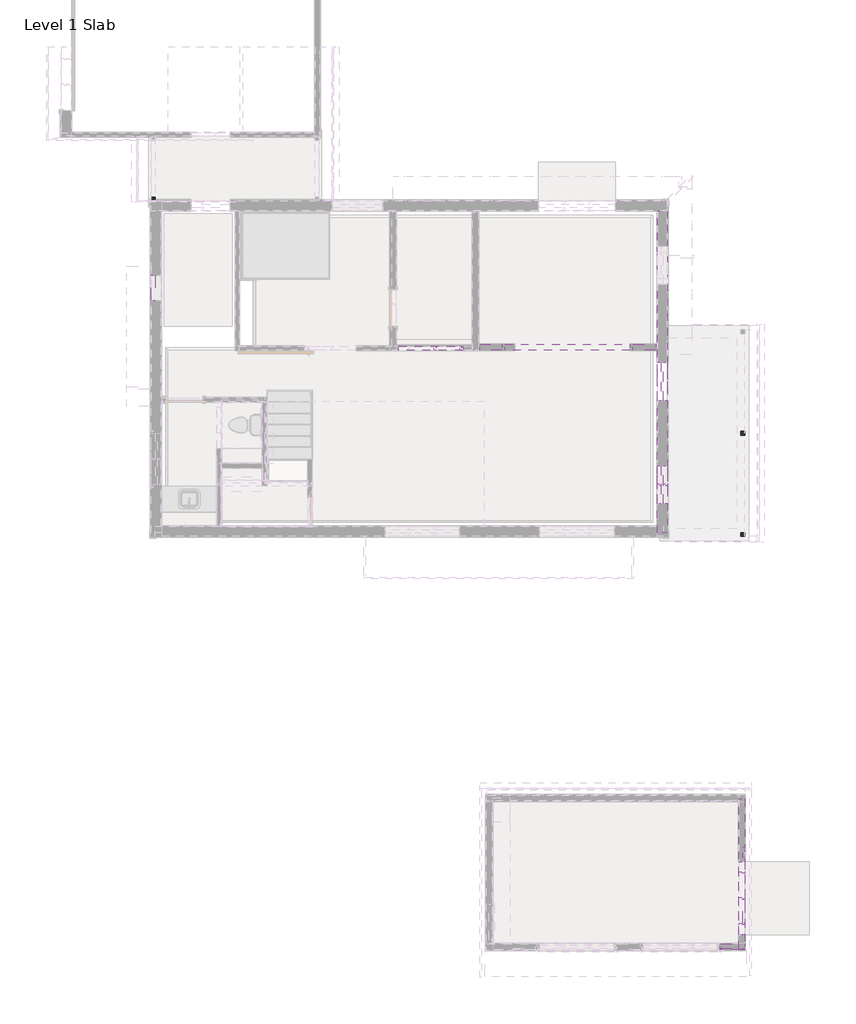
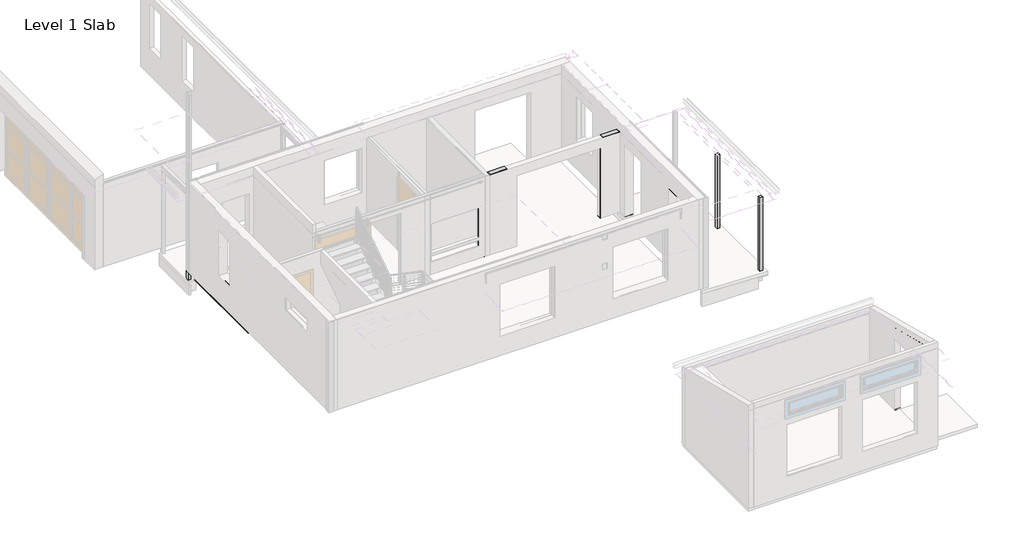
# One storey, part 7 of 11: 107 beams, 8 columns.
"""IFC4 building model written with IfcOpenShell, lengths in millimetres."""

from ifc_helpers import new_model, si_unit, frame, origin, origin_with_axes, place, context, project, spatial, polyline, outline, extrude, transform, mapped, element, save
from components import dimension_lumber_2x2_c3e2c1cf, dimension_lumber_2x2_08950960, dimension_lumber_2x2_9f254d07, dimension_lumber_2x2_fbeded5b, dimension_lumber_2x4_2dd300de, dimension_lumber_2x4_b7cbdda3, dimension_lumber_2x4_fd937da0, dimension_lumber_2x4_453c5e2a, dimension_lumber_2x4_cb0fdfa4, dimension_lumber_2x4_2c48d0d1, dimension_lumber_2x4_4d8e3e30, dimension_lumber_2x4_7c62d23e, dimension_lumber_2x4_f0cfbcd8, dimension_lumber_2x4_02e58853, dimension_lumber_2x4_35f39350, dimension_lumber_2x4_738760fd, dimension_lumber_2x4_d2ad68aa, dimension_lumber_2x4_ecf07961, dimension_lumber_2x6_253154f5, dimension_lumber_2x6_13f6f239, dimension_lumber_2x6_2847fc75, dimension_lumber_2x6_2ccf5596, dimension_lumber_2x6_59b9ee6c, dimension_lumber_2x6_1b54fe5d, dimension_lumber_2x6_184016b7, dimension_lumber_2x6_2ad6867e, dimension_lumber_2x6_e1981d56, dimension_lumber_2x6_72b217a7, dimension_lumber_2x6_af308bb7, dimension_lumber_2x6_0f12f206, dimension_lumber_2x6_d64612f5, dimension_lumber_2x6_a43e2e79, dimension_lumber_2x6_5879879b, dimension_lumber_2x6_691fcd61, dimension_lumber_2x6_1c5a12aa, dimension_lumber_2x6_ff2e0cc2, dimension_lumber_2x6_2d2301bf, dimension_lumber_4x6_ef52ddf4, dimension_lumber_4x6_a3d246c2, dimension_lumber_4x6_0e10d602, dimension_lumber_4x8_cfcc723d, timber_6x6_61547d3c, column_4bd45d62, column_46512281, column_7f5f3ff1, column_a178d7d2

model = new_model("IFC4")

# Units and contexts
model_context = context("Model", 3, world=origin())
ifc_project = project(units=[si_unit("LENGTHUNIT", "METRE", prefix="MILLI")], contexts=[model_context])

# Site, building, storey
site = spatial("IfcSite", under=ifc_project)
building = spatial("IfcBuilding", under=site)
storey = spatial("IfcBuildingStorey", under=building, Name="Level 1 Slab", Elevation=0.0)

# Beams
placement = place(None, origin())
element("IfcBeam", 1, ObjectType="Dimension Lumber : 2x10", at=placement, inside=storey, context=model_context, shape_type="SweptSolid", body=[
    extrude(outline(polyline([(-1074.0678637, -4487.3650713), (-1309.0178637, -4487.3650713), (-1309.0178637, 3113.5849287), (-1074.0678637, 3113.5849287), (-1074.0678637, -4487.3650713)])), frame((0.0, 0.0, 2705.1), z_axis=(0.0, 0.0, 1.0), x_axis=(1.0, 0.0, 0.0)), (0.0, 0.0, 1.0), 38.1),
])
element("IfcBeam", 2, ObjectType="Dimension Lumber : 2x2", at=placement, inside=storey, context=model_context, shape_type="SweptSolid", body=[
    extrude(outline(polyline([(-1074.0678637, -423.1904463), (-1112.1678637, -423.1904463), (-1112.1678637, -385.0904463), (-1074.0678637, -385.0904463), (-1074.0678637, -423.1904463)])), frame((0.0, 0.0, 38.1), z_axis=(0.0, 0.0, 1.0), x_axis=(1.0, 0.0, 0.0)), (0.0, 0.0, 1.0), 2667.0),
])
element("IfcBeam", 3, ObjectType="Dimension Lumber : 2x2", at=placement, inside=storey, context=model_context, shape_type="SweptSolid", body=[
    extrude(outline(polyline([(-12358.0078637, 3348.5349287), (-12358.0078637, 3310.4349287), (-12396.1078637, 3310.4349287), (-12396.1078637, 3348.5349287), (-12358.0078637, 3348.5349287)])), frame((0.0, 0.0, 38.1), z_axis=(0.0, 0.0, 1.0), x_axis=(1.0, 0.0, 0.0)), (0.0, 0.0, 1.0), 2667.0),
])
element("IfcBeam", 4, ObjectType="Dimension Lumber : 2x2", at=placement, inside=storey, context=model_context, shape_type="SweptSolid", body=[
    extrude(outline(polyline([(754.7321363, -14063.1650713), (716.6321363, -14063.1650713), (716.6321363, -14025.0650713), (754.7321363, -14025.0650713), (754.7321363, -14063.1650713)])), frame((0.0, 0.0, -114.3), z_axis=(0.0, 0.0, 1.0), x_axis=(1.0, 0.0, 0.0)), (0.0, 0.0, 1.0), 2489.2),
])
dimension_lumber_2x2_shape = dimension_lumber_2x2_c3e2c1cf(model_context)
element("IfcBeam", 5, ObjectType="Dimension Lumber : 2x2", at=placement, inside=storey, context=model_context, shape_type="MappedRepresentation", body=[
    mapped(dimension_lumber_2x2_shape, transform((-13247.0178637, 935.5349287, 1771.65), x_axis=(0.0, 0.0, 1.0), y_axis=(0.0, -1.0, 0.0), z_axis=(1.0, 0.0, 0.0))),
])
dimension_lumber_2x2_2_shape = dimension_lumber_2x2_08950960(model_context)
element("IfcBeam", 6, ObjectType="Dimension Lumber : 2x2", at=placement, inside=storey, context=model_context, shape_type="MappedRepresentation", body=[
    mapped(dimension_lumber_2x2_2_shape, transform((-1093.1178637, -2847.4875713, 1619.25), x_axis=(0.0, 0.0, 1.0), y_axis=(0.0, -1.0, 0.0), z_axis=(1.0, 0.0, 0.0))),
])
element("IfcBeam", 7, ObjectType="Dimension Lumber : 2x2", at=placement, inside=storey, context=model_context, shape_type="MappedRepresentation", body=[
    mapped(dimension_lumber_2x2_2_shape, transform((-1093.1178637, -3864.8904463, 1619.25), x_axis=(0.0, 0.0, 1.0), y_axis=(0.0, -1.0, 0.0), z_axis=(1.0, 0.0, 0.0))),
])
dimension_lumber_2x2_3_shape = dimension_lumber_2x2_9f254d07(model_context)
element("IfcBeam", 8, ObjectType="Dimension Lumber : 2x2", at=placement, inside=storey, context=model_context, shape_type="MappedRepresentation", body=[
    mapped(dimension_lumber_2x2_3_shape, transform((195.9421363, -14323.5150713, 2819.4), x_axis=(0.0, 0.0, 1.0), y_axis=(1.0, 0.0, 0.0), z_axis=(0.0, 1.0, 0.0))),
])
dimension_lumber_2x2_4_shape = dimension_lumber_2x2_fbeded5b(model_context)
element("IfcBeam", 9, ObjectType="Dimension Lumber : 2x2", at=placement, inside=storey, context=model_context, shape_type="MappedRepresentation", body=[
    mapped(dimension_lumber_2x2_4_shape, transform((195.9421363, -14323.5150713, 1377.95), x_axis=(0.0, 0.0, 1.0), y_axis=(1.0, 0.0, 0.0), z_axis=(0.0, 1.0, 0.0))),
])
element("IfcBeam", 10, ObjectType="Dimension Lumber : 2x4", at=placement, inside=storey, context=model_context, shape_type="SweptSolid", body=[
    extrude(outline(polyline([(38.1, -13175.5803637), (0.0, -13175.5803637), (0.0, -12319.9078637), (38.1, -12358.0078637), (38.1, -13175.5803637)])), frame((0.0, 3259.6349287, 0.0), z_axis=(0.0, 1.0, 0.0), x_axis=(0.0, 0.0, 1.0)), (0.0, 0.0, 1.0), 88.9),
])
element("IfcBeam", 11, ObjectType="Dimension Lumber : 2x4", at=placement, inside=storey, context=model_context, shape_type="SweptSolid", body=[
    extrude(outline(polyline([(-13137.4803637, 3348.5349287), (-13137.4803637, 3259.6349287), (-13175.5803637, 3259.6349287), (-13175.5803637, 3348.5349287), (-13137.4803637, 3348.5349287)])), frame((0.0, 0.0, 38.1000006), z_axis=(0.0, 0.0, 1.0), x_axis=(1.0, 0.0, 0.0)), (0.0, 0.0, 1.0), 2666.9999994),
])
element("IfcBeam", 12, ObjectType="Dimension Lumber : 2x4", at=placement, inside=storey, context=model_context, shape_type="SweptSolid", body=[
    extrude(outline(polyline([(2705.1, -12319.9078637), (2705.1, -12358.0078637), (38.1, -12358.0078637), (0.0, -12319.9078637), (2705.1, -12319.9078637)])), frame((0.0, 3259.6349287, 0.0), z_axis=(0.0, 1.0, 0.0), x_axis=(0.0, 0.0, 1.0)), (0.0, 0.0, 1.0), 88.9),
])
element("IfcBeam", 13, ObjectType="Dimension Lumber : 2x4", at=placement, inside=storey, context=model_context, shape_type="SweptSolid", body=[
    extrude(outline(polyline([(-1162.9678637, -1375.6904463), (-1074.0678637, -1375.6904463), (-1074.0678637, -4576.0904463), (-1162.9678637, -4576.0904463), (-1162.9678637, -1375.6904463)])), origin_with_axes(), (0.0, 0.0, 1.0), 38.1),
])
element("IfcBeam", 14, ObjectType="Dimension Lumber : 2x4", at=placement, inside=storey, context=model_context, shape_type="SweptSolid", body=[
    extrude(outline(polyline([(-1074.0678637, -461.2904463), (-1162.9678637, -461.2904463), (-1162.9678637, -423.1904463), (-1074.0678637, -423.1904463), (-1074.0678637, -461.2904463)])), origin_with_axes(), (0.0, 0.0, 1.0), 2705.1),
])
element("IfcBeam", 15, ObjectType="Dimension Lumber : 2x4", at=placement, inside=storey, context=model_context, shape_type="SweptSolid", body=[
    extrude(outline(polyline([(-1074.0678637, -1547.3150713), (-1162.9678637, -1547.3150713), (-1162.9678637, -1509.2150713), (-1074.0678637, -1509.2150713), (-1074.0678637, -1547.3150713)])), frame((0.0, 0.0, 38.1), z_axis=(0.0, 0.0, 1.0), x_axis=(1.0, 0.0, 0.0)), (0.0, 0.0, 1.0), 2667.0),
])
element("IfcBeam", 16, ObjectType="Dimension Lumber : 2x4", at=placement, inside=storey, context=model_context, shape_type="SweptSolid", body=[
    extrude(outline(polyline([(-13081.9178637, 3202.4849287), (-13081.9178637, 3113.5849287), (-13120.0178637, 3113.5849287), (-13120.0178637, 3202.4849287), (-13081.9178637, 3202.4849287)])), frame((0.0, 0.0, 38.1), z_axis=(0.0, 0.0, 1.0), x_axis=(1.0, 0.0, 0.0)), (0.0, 0.0, 1.0), 2667.0),
])
element("IfcBeam", 17, ObjectType="Dimension Lumber : 2x4", at=placement, inside=storey, context=model_context, shape_type="SweptSolid", body=[
    extrude(outline(polyline([(-1309.0178637, -1413.7904463), (-1220.1178637, -1413.7904463), (-1220.1178637, -4341.3150713), (-1309.0178637, -4341.3150713), (-1309.0178637, -1413.7904463)])), origin_with_axes(), (0.0, 0.0, 1.0), 38.1),
])
element("IfcBeam", 18, ObjectType="Dimension Lumber : 2x4", at=placement, inside=storey, context=model_context, shape_type="SweptSolid", body=[
    extrude(outline(polyline([(-1220.1178637, -461.2904463), (-1309.0178637, -461.2904463), (-1309.0178637, -423.1904463), (-1220.1178637, -423.1904463), (-1220.1178637, -461.2904463)])), origin_with_axes(), (0.0, 0.0, 1.0), 2705.1),
])
element("IfcBeam", 19, ObjectType="Dimension Lumber : 2x4", at=placement, inside=storey, context=model_context, shape_type="SweptSolid", body=[
    extrude(outline(polyline([(-1220.1178637, -1413.7904463), (-1309.0178637, -1413.7904463), (-1309.0178637, -1375.6904463), (-1220.1178637, -1375.6904463), (-1220.1178637, -1413.7904463)])), origin_with_axes(), (0.0, 0.0, 1.0), 2705.1),
])
element("IfcBeam", 20, ObjectType="Dimension Lumber : 2x4", at=placement, inside=storey, context=model_context, shape_type="SweptSolid", body=[
    extrude(outline(polyline([(-7427.2428637, -175.7150713), (-7427.2428637, -86.8150713), (-5903.2428637, -86.8150713), (-5903.2428637, -175.7150713), (-7427.2428637, -175.7150713)])), frame((0.0, 0.0, 635.0), z_axis=(0.0, 0.0, 1.0), x_axis=(1.0, 0.0, 0.0)), (0.0, 0.0, 1.0), 38.1),
])
element("IfcBeam", 21, ObjectType="Dimension Lumber : 2x4", at=placement, inside=storey, context=model_context, shape_type="SweptSolid", body=[
    extrude(outline(polyline([(-13126.3678637, 3202.4849287), (-13037.4678637, 3202.4849287), (-13037.4678637, 217.9849287), (-13126.3678637, 217.9849287), (-13126.3678637, 3202.4849287)])), frame((0.0, 0.0, -274.3398438), z_axis=(0.0, 0.0, 1.0), x_axis=(1.0, 0.0, 0.0)), (0.0, 0.0, 1.0), 38.1),
])
element("IfcBeam", 22, ObjectType="Dimension Lumber : 2x4", at=placement, inside=storey, context=model_context, shape_type="SweptSolid", body=[
    extrude(outline(polyline([(-7427.2428637, -175.7150713), (-7427.2428637, -86.8150713), (-5903.2428637, -86.8150713), (-5903.2428637, -175.7150713), (-7427.2428637, -175.7150713)])), frame((0.0, 0.0, 673.1), z_axis=(0.0, 0.0, 1.0), x_axis=(1.0, 0.0, 0.0)), (0.0, 0.0, 1.0), 38.1),
])
element("IfcBeam", 23, ObjectType="Dimension Lumber : 2x4", at=placement, inside=storey, context=model_context, shape_type="SweptSolid", body=[
    extrude(outline(polyline([(-7427.2428637, -175.7150713), (-7427.2428637, -86.8150713), (-5903.2428637, -86.8150713), (-5903.2428637, -175.7150713), (-7427.2428637, -175.7150713)])), frame((0.0, 0.0, 393.7), z_axis=(0.0, 0.0, 1.0), x_axis=(1.0, 0.0, 0.0)), (0.0, 0.0, 1.0), 38.1),
])
element("IfcBeam", 24, ObjectType="Dimension Lumber : 2x4", at=placement, inside=storey, context=model_context, shape_type="SweptSolid", body=[
    extrude(outline(polyline([(-5884.1928637, -74.1150713), (-5884.1928637, 14.7849287), (-5677.8178637, 14.7849287), (-5677.8178637, -74.1150713), (-5884.1928637, -74.1150713)])), origin_with_axes(), (0.0, 0.0, 1.0), 38.1),
])
dimension_lumber_2x4_shape = dimension_lumber_2x4_2dd300de(model_context)
element("IfcBeam", 25, ObjectType="Dimension Lumber : 2x4", at=placement, inside=storey, context=model_context, shape_type="MappedRepresentation", body=[
    mapped(dimension_lumber_2x4_shape, transform((-1118.5178637, -3356.8904463, 603.25), x_axis=(0.0, -1.0, 0.0), y_axis=(0.0, 0.0, -1.0), z_axis=(1.0, 0.0, 0.0))),
])
element("IfcBeam", 26, ObjectType="Dimension Lumber : 2x4", at=placement, inside=storey, context=model_context, shape_type="MappedRepresentation", body=[
    mapped(dimension_lumber_2x4_shape, transform((-1264.5678637, -3356.8904463, 2457.45), x_axis=(0.0, -1.0000000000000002, 0.0), y_axis=(0.0, 0.0, -1.0000000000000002), z_axis=(1.0000000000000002, 0.0, 0.0))),
])
element("IfcBeam", 27, ObjectType="Dimension Lumber : 2x4", at=placement, inside=storey, context=model_context, shape_type="MappedRepresentation", body=[
    mapped(dimension_lumber_2x4_shape, transform((-1118.5178637, -3356.8904463, 565.15), x_axis=(0.0, -1.0, 0.0), y_axis=(0.0, 0.0, -1.0), z_axis=(1.0, 0.0, 0.0))),
])
element("IfcBeam", 28, ObjectType="Dimension Lumber : 2x4", at=placement, inside=storey, context=model_context, shape_type="MappedRepresentation", body=[
    mapped(dimension_lumber_2x4_shape, transform((-1264.5678637, -3356.8904463, 603.25), x_axis=(0.0, -1.0, 0.0), y_axis=(0.0, 0.0, -1.0), z_axis=(1.0, 0.0, 0.0))),
])
element("IfcBeam", 29, ObjectType="Dimension Lumber : 2x4", at=placement, inside=storey, context=model_context, shape_type="MappedRepresentation", body=[
    mapped(dimension_lumber_2x4_shape, transform((-1264.5678637, -3356.8904463, 565.15), x_axis=(0.0, -1.0, 0.0), y_axis=(0.0, 0.0, -1.0), z_axis=(1.0, 0.0, 0.0))),
])
dimension_lumber_2x4_2_shape = dimension_lumber_2x4_b7cbdda3(model_context)
element("IfcBeam", 30, ObjectType="Dimension Lumber : 2x4", at=placement, inside=storey, context=model_context, shape_type="MappedRepresentation", body=[
    mapped(dimension_lumber_2x4_2_shape, transform((-13221.6178637, 2129.3349287, 1371.6), x_axis=(0.0, 0.0, 1.0), y_axis=(0.0, -1.0, 0.0), z_axis=(1.0, 0.0, 0.0))),
])
element("IfcBeam", 31, ObjectType="Dimension Lumber : 2x4", at=placement, inside=storey, context=model_context, shape_type="MappedRepresentation", body=[
    mapped(dimension_lumber_2x4_2_shape, transform((-13221.6178637, 2738.9349287, 1371.6), x_axis=(0.0, 0.0, 1.0), y_axis=(0.0, -1.0, 0.0), z_axis=(1.0, 0.0, 0.0))),
])
element("IfcBeam", 32, ObjectType="Dimension Lumber : 2x4", at=placement, inside=storey, context=model_context, shape_type="MappedRepresentation", body=[
    mapped(dimension_lumber_2x4_2_shape, transform((-1118.5178637, -2135.2152588, 1371.6), x_axis=(0.0, 0.0, 1.0), y_axis=(0.0, -1.0, 0.0), z_axis=(1.0, 0.0, 0.0))),
])
element("IfcBeam", 33, ObjectType="Dimension Lumber : 2x4", at=placement, inside=storey, context=model_context, shape_type="MappedRepresentation", body=[
    mapped(dimension_lumber_2x4_2_shape, transform((-1118.5178637, -2886.9904463, 1371.6), x_axis=(0.0, 0.0, 1.0), y_axis=(0.0, -1.0, 0.0), z_axis=(1.0, 0.0, 0.0))),
])
element("IfcBeam", 34, ObjectType="Dimension Lumber : 2x4", at=placement, inside=storey, context=model_context, shape_type="MappedRepresentation", body=[
    mapped(dimension_lumber_2x4_2_shape, transform((-1118.5178637, -3826.7904463, 1371.6), x_axis=(0.0, 0.0, 1.0), y_axis=(0.0, -1.0, 0.0), z_axis=(1.0, 0.0, 0.0))),
])
element("IfcBeam", 35, ObjectType="Dimension Lumber : 2x4", at=placement, inside=storey, context=model_context, shape_type="MappedRepresentation", body=[
    mapped(dimension_lumber_2x4_2_shape, transform((-12656.4678637, 3304.0849287, 1371.6), x_axis=(0.0, 0.0, 1.0), y_axis=(1.0, 0.0, 0.0), z_axis=(0.0, 1.0, 0.0))),
])
element("IfcBeam", 36, ObjectType="Dimension Lumber : 2x4", at=placement, inside=storey, context=model_context, shape_type="MappedRepresentation", body=[
    mapped(dimension_lumber_2x4_2_shape, transform((-5884.1928637, -131.2650713, 1371.6), x_axis=(0.0, 0.0, 1.0), y_axis=(1.0, 0.0, 0.0), z_axis=(0.0, 1.0, 0.0))),
])
element("IfcBeam", 37, ObjectType="Dimension Lumber : 2x4", at=placement, inside=storey, context=model_context, shape_type="MappedRepresentation", body=[
    mapped(dimension_lumber_2x4_2_shape, transform((-5633.3678637, -156.6650713, 1371.6), x_axis=(0.0, 0.0, 1.0), y_axis=(0.0, -1.0, 0.0), z_axis=(1.0, 0.0, 0.0))),
])
element("IfcBeam", 38, ObjectType="Dimension Lumber : 2x4", at=placement, inside=storey, context=model_context, shape_type="MappedRepresentation", body=[
    mapped(dimension_lumber_2x4_2_shape, transform((-1118.5178637, -2747.4650713, 1371.6), x_axis=(0.0, 0.0, 1.0), y_axis=(0.0, -1.0, 0.0), z_axis=(1.0, 0.0, 0.0))),
])
element("IfcBeam", 39, ObjectType="Dimension Lumber : 2x4", at=placement, inside=storey, context=model_context, shape_type="MappedRepresentation", body=[
    mapped(dimension_lumber_2x4_2_shape, transform((-1118.5178637, -3966.6650713, 1371.6), x_axis=(0.0, 0.0, 1.0), y_axis=(0.0, -1.0, 0.0), z_axis=(1.0, 0.0, 0.0))),
])
element("IfcBeam", 40, ObjectType="Dimension Lumber : 2x4", at=placement, inside=storey, context=model_context, shape_type="MappedRepresentation", body=[
    mapped(dimension_lumber_2x4_2_shape, transform((-1118.5178637, -306.4152588, 1371.6), x_axis=(0.0, 0.0, 1.0), y_axis=(0.0, -1.0, 0.0), z_axis=(1.0, 0.0, 0.0))),
])
element("IfcBeam", 41, ObjectType="Dimension Lumber : 2x4", at=placement, inside=storey, context=model_context, shape_type="MappedRepresentation", body=[
    mapped(dimension_lumber_2x4_2_shape, transform((-1264.5678637, -2135.2152588, 1371.6), x_axis=(0.0, 0.0, 1.0), y_axis=(0.0, -1.0, 0.0), z_axis=(1.0, 0.0, 0.0))),
])
element("IfcBeam", 42, ObjectType="Dimension Lumber : 2x4", at=placement, inside=storey, context=model_context, shape_type="MappedRepresentation", body=[
    mapped(dimension_lumber_2x4_2_shape, transform((-1264.5678637, -2886.9904463, 1371.6), x_axis=(0.0, 0.0, 1.0), y_axis=(0.0, -1.0, 0.0), z_axis=(1.0, 0.0, 0.0))),
])
element("IfcBeam", 43, ObjectType="Dimension Lumber : 2x4", at=placement, inside=storey, context=model_context, shape_type="MappedRepresentation", body=[
    mapped(dimension_lumber_2x4_2_shape, transform((-1264.5678637, -3826.7904463, 1371.6), x_axis=(0.0, 0.0, 1.0), y_axis=(0.0, -1.0, 0.0), z_axis=(1.0, 0.0, 0.0))),
])
element("IfcBeam", 44, ObjectType="Dimension Lumber : 2x4", at=placement, inside=storey, context=model_context, shape_type="MappedRepresentation", body=[
    mapped(dimension_lumber_2x4_2_shape, transform((-1264.5678637, -2747.4650713, 1371.6), x_axis=(0.0, 0.0, 1.0), y_axis=(0.0, -1.0, 0.0), z_axis=(1.0, 0.0, 0.0))),
])
element("IfcBeam", 45, ObjectType="Dimension Lumber : 2x4", at=placement, inside=storey, context=model_context, shape_type="MappedRepresentation", body=[
    mapped(dimension_lumber_2x4_2_shape, transform((-1264.5678637, -3966.6650713, 1371.6), x_axis=(0.0, 0.0, 1.0), y_axis=(0.0, -1.0, 0.0), z_axis=(1.0, 0.0, 0.0))),
])
element("IfcBeam", 46, ObjectType="Dimension Lumber : 2x4", at=placement, inside=storey, context=model_context, shape_type="MappedRepresentation", body=[
    mapped(dimension_lumber_2x4_2_shape, transform((-1264.5678637, -1525.6152588, 1371.6), x_axis=(0.0, 0.0, 1.0), y_axis=(0.0, -1.0, 0.0), z_axis=(1.0, 0.0, 0.0))),
])
element("IfcBeam", 47, ObjectType="Dimension Lumber : 2x4", at=placement, inside=storey, context=model_context, shape_type="MappedRepresentation", body=[
    mapped(dimension_lumber_2x4_2_shape, transform((-1264.5678637, -306.4152588, 1371.6), x_axis=(0.0, 0.0, 1.0), y_axis=(0.0, -1.0, 0.0), z_axis=(1.0, 0.0, 0.0))),
])
element("IfcBeam", 48, ObjectType="Dimension Lumber : 2x4", at=placement, inside=storey, context=model_context, shape_type="MappedRepresentation", body=[
    mapped(dimension_lumber_2x4_2_shape, transform((-13221.6178637, 973.6349287, 1371.6), x_axis=(0.0, 0.0, 1.0), y_axis=(0.0, -1.0, 0.0), z_axis=(1.0, 0.0, 0.0))),
])
element("IfcBeam", 49, ObjectType="Dimension Lumber : 2x4", at=placement, inside=storey, context=model_context, shape_type="MappedRepresentation", body=[
    mapped(dimension_lumber_2x4_2_shape, transform((-13221.6178637, 2167.4349287, 1371.6), x_axis=(0.0, 0.0, 1.0), y_axis=(0.0, -1.0, 0.0), z_axis=(1.0, 0.0, 0.0))),
])
element("IfcBeam", 50, ObjectType="Dimension Lumber : 2x4", at=placement, inside=storey, context=model_context, shape_type="MappedRepresentation", body=[
    mapped(dimension_lumber_2x4_2_shape, transform((-1118.5178637, -80.4650713, 1371.6), x_axis=(0.0, 0.0, 1.0), y_axis=(0.0, -1.0, 0.0), z_axis=(1.0, 0.0, 0.0))),
])
element("IfcBeam", 51, ObjectType="Dimension Lumber : 2x4", at=placement, inside=storey, context=model_context, shape_type="MappedRepresentation", body=[
    mapped(dimension_lumber_2x4_2_shape, transform((-1118.5178637, -118.5650713, 1371.6), x_axis=(0.0, 0.0, 1.0), y_axis=(0.0, -1.0, 0.0), z_axis=(1.0, 0.0, 0.0))),
])
dimension_lumber_2x4_3_shape = dimension_lumber_2x4_fd937da0(model_context)
element("IfcBeam", 52, ObjectType="Dimension Lumber : 2x4", at=placement, inside=storey, context=model_context, shape_type="MappedRepresentation", body=[
    mapped(dimension_lumber_2x4_3_shape, transform((-13221.6178637, 1291.1349287, 908.05), x_axis=(0.0, 1.0, 0.0), y_axis=(0.0, 0.0, -1.0), z_axis=(-1.0, 0.0, 0.0))),
])
dimension_lumber_2x4_4_shape = dimension_lumber_2x4_453c5e2a(model_context)
element("IfcBeam", 53, ObjectType="Dimension Lumber : 2x4", at=placement, inside=storey, context=model_context, shape_type="MappedRepresentation", body=[
    mapped(dimension_lumber_2x4_4_shape, transform((-13221.6178637, 300.5349287, 1371.6), x_axis=(0.0, 0.0, 1.0), y_axis=(0.0, 1.0, 0.0), z_axis=(-1.0, 0.0, 0.0))),
])
dimension_lumber_2x4_5_shape = dimension_lumber_2x4_cb0fdfa4(model_context)
element("IfcBeam", 54, ObjectType="Dimension Lumber : 2x4", at=placement, inside=storey, context=model_context, shape_type="MappedRepresentation", body=[
    mapped(dimension_lumber_2x4_5_shape, transform((-5696.8678637, -131.2650713, 1371.6), x_axis=(0.0, 0.0, 1.0), y_axis=(1.0, 0.0, 0.0), z_axis=(0.0, 1.0, 0.0))),
])
dimension_lumber_2x4_6_shape = dimension_lumber_2x4_2c48d0d1(model_context)
element("IfcBeam", 55, ObjectType="Dimension Lumber : 2x4", at=placement, inside=storey, context=model_context, shape_type="MappedRepresentation", body=[
    mapped(dimension_lumber_2x4_6_shape, transform((-1118.5178637, -3357.0650713, 2641.6), x_axis=(0.0, 0.0, 1.0), y_axis=(0.0, -1.0, 0.0), z_axis=(1.0, 0.0, 0.0))),
])
dimension_lumber_2x4_7_shape = dimension_lumber_2x4_4d8e3e30(model_context)
element("IfcBeam", 56, ObjectType="Dimension Lumber : 2x4", at=placement, inside=storey, context=model_context, shape_type="MappedRepresentation", body=[
    mapped(dimension_lumber_2x4_7_shape, transform((-1118.5178637, -3357.0650713, 292.1), x_axis=(0.0, 0.0, 1.0), y_axis=(0.0, -1.0, 0.0), z_axis=(1.0, 0.0, 0.0))),
])
element("IfcBeam", 57, ObjectType="Dimension Lumber : 2x4", at=placement, inside=storey, context=model_context, shape_type="MappedRepresentation", body=[
    mapped(dimension_lumber_2x4_7_shape, transform((-1264.5678637, -3357.0650713, 292.1), x_axis=(0.0, 0.0, 1.0), y_axis=(0.0, -1.0, 0.0), z_axis=(1.0, 0.0, 0.0))),
])
dimension_lumber_2x4_8_shape = dimension_lumber_2x4_7c62d23e(model_context)
element("IfcBeam", 58, ObjectType="Dimension Lumber : 2x4", at=placement, inside=storey, context=model_context, shape_type="MappedRepresentation", body=[
    mapped(dimension_lumber_2x4_8_shape, transform((-1264.5678637, -3357.0650713, 2590.8), x_axis=(0.0, 0.0, 1.0), y_axis=(0.0, -1.0, 0.0), z_axis=(1.0, 0.0, 0.0))),
])
dimension_lumber_2x4_9_shape = dimension_lumber_2x4_f0cfbcd8(model_context)
element("IfcBeam", 59, ObjectType="Dimension Lumber : 2x4", at=placement, inside=storey, context=model_context, shape_type="MappedRepresentation", body=[
    mapped(dimension_lumber_2x4_9_shape, transform((-13075.5678637, 1281.6099287, 908.05), x_axis=(0.0, 1.0, 0.0), y_axis=(0.0, 0.0, -1.0), z_axis=(-1.0, 0.0, 0.0))),
])
dimension_lumber_2x4_10_shape = dimension_lumber_2x4_02e58853(model_context)
element("IfcBeam", 60, ObjectType="Dimension Lumber : 2x4", at=placement, inside=storey, context=model_context, shape_type="MappedRepresentation", body=[
    mapped(dimension_lumber_2x4_10_shape, transform((-1264.5678637, -908.9654463, 2457.45), x_axis=(0.0, -1.0000000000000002, 0.0), y_axis=(0.0, 0.0, -1.0000000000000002), z_axis=(1.0000000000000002, 0.0, 0.0))),
])
dimension_lumber_2x4_11_shape = dimension_lumber_2x4_35f39350(model_context)
element("IfcBeam", 61, ObjectType="Dimension Lumber : 2x4", at=placement, inside=storey, context=model_context, shape_type="MappedRepresentation", body=[
    mapped(dimension_lumber_2x4_11_shape, transform((-13075.5678637, 300.5349287, 1234.4300781), x_axis=(0.0, 0.0, 1.0), y_axis=(0.0, 1.0, 0.0), z_axis=(-1.0, 0.0, 0.0))),
])
dimension_lumber_2x4_12_shape = dimension_lumber_2x4_738760fd(model_context)
element("IfcBeam", 62, ObjectType="Dimension Lumber : 2x4", at=placement, inside=storey, context=model_context, shape_type="MappedRepresentation", body=[
    mapped(dimension_lumber_2x4_12_shape, transform((-13075.5678637, 2129.3349287, 1234.4300781), x_axis=(0.0, 0.0, 1.0), y_axis=(0.0, -1.0, 0.0), z_axis=(1.0, 0.0, 0.0))),
])
element("IfcBeam", 63, ObjectType="Dimension Lumber : 2x4", at=placement, inside=storey, context=model_context, shape_type="MappedRepresentation", body=[
    mapped(dimension_lumber_2x4_12_shape, transform((-13075.5678637, 1608.6349287, 1234.4300781), x_axis=(0.0, 0.0, 1.0), y_axis=(0.0, -1.0, 0.0), z_axis=(1.0, 0.0, 0.0))),
])
element("IfcBeam", 64, ObjectType="Dimension Lumber : 2x4", at=placement, inside=storey, context=model_context, shape_type="MappedRepresentation", body=[
    mapped(dimension_lumber_2x4_12_shape, transform((-13075.5678637, 2738.9349287, 1234.4300781), x_axis=(0.0, 0.0, 1.0), y_axis=(0.0, -1.0, 0.0), z_axis=(1.0, 0.0, 0.0))),
])
element("IfcBeam", 65, ObjectType="Dimension Lumber : 2x4", at=placement, inside=storey, context=model_context, shape_type="MappedRepresentation", body=[
    mapped(dimension_lumber_2x4_12_shape, transform((-13075.5678637, 973.6349287, 1234.4300781), x_axis=(0.0, 0.0, 1.0), y_axis=(0.0, -1.0, 0.0), z_axis=(1.0, 0.0, 0.0))),
])
element("IfcBeam", 66, ObjectType="Dimension Lumber : 2x4", at=placement, inside=storey, context=model_context, shape_type="MappedRepresentation", body=[
    mapped(dimension_lumber_2x4_12_shape, transform((-13075.5678637, 3094.5349287, 1234.4300781), x_axis=(0.0, 0.0, 1.0), y_axis=(0.0, -1.0, 0.0), z_axis=(1.0, 0.0, 0.0))),
])
dimension_lumber_2x4_13_shape = dimension_lumber_2x4_d2ad68aa(model_context)
element("IfcBeam", 67, ObjectType="Dimension Lumber : 2x4", at=placement, inside=storey, context=model_context, shape_type="MappedRepresentation", body=[
    mapped(dimension_lumber_2x4_13_shape, transform((-6560.4678637, -131.2650713, 215.9), x_axis=(0.0, 0.0, 1.0), y_axis=(1.0, 0.0, 0.0), z_axis=(0.0, 1.0, 0.0))),
])
element("IfcBeam", 68, ObjectType="Dimension Lumber : 2x4", at=placement, inside=storey, context=model_context, shape_type="MappedRepresentation", body=[
    mapped(dimension_lumber_2x4_13_shape, transform((-5950.8678637, -131.2650713, 215.9), x_axis=(0.0, 0.0, 1.0), y_axis=(1.0, 0.0, 0.0), z_axis=(0.0, 1.0, 0.0))),
])
dimension_lumber_2x4_14_shape = dimension_lumber_2x4_ecf07961(model_context)
element("IfcBeam", 69, ObjectType="Dimension Lumber : 2x4", at=placement, inside=storey, context=model_context, shape_type="MappedRepresentation", body=[
    mapped(dimension_lumber_2x4_14_shape, transform((-6560.4678637, -131.2650713, 2308.225), x_axis=(0.0, 0.0, 1.0), y_axis=(1.0, 0.0, 0.0), z_axis=(0.0, 1.0, 0.0))),
])
element("IfcBeam", 70, ObjectType="Dimension Lumber : 2x4", at=placement, inside=storey, context=model_context, shape_type="MappedRepresentation", body=[
    mapped(dimension_lumber_2x4_14_shape, transform((-5950.8678637, -131.2650713, 2308.225), x_axis=(0.0, 0.0, 1.0), y_axis=(1.0, 0.0, 0.0), z_axis=(0.0, 1.0, 0.0))),
])
element("IfcBeam", 71, ObjectType="Dimension Lumber : 2x6", at=placement, inside=storey, context=model_context, shape_type="SweptSolid", body=[
    extrude(outline(polyline([(-5500.0178637, -175.7150713), (-5500.0178637, -36.0150713), (-4903.1178637, -36.0150713), (-4903.1178637, -175.7150713), (-5500.0178637, -175.7150713)])), origin_with_axes(), (0.0, 0.0, 1.0), 38.1),
])
element("IfcBeam", 72, ObjectType="Dimension Lumber : 2x6", at=placement, inside=storey, context=model_context, shape_type="SweptSolid", body=[
    extrude(outline(polyline([(-1918.6178637, -175.7150713), (-1918.6178637, -36.0150713), (-1347.1178637, -36.0150713), (-1347.1178637, -175.7150713), (-1918.6178637, -175.7150713)])), origin_with_axes(), (0.0, 0.0, 1.0), 38.1),
])
element("IfcBeam", 73, ObjectType="Dimension Lumber : 2x6", at=placement, inside=storey, context=model_context, shape_type="SweptSolid", body=[
    extrude(outline(polyline([(2286.0, 615.0321363), (2247.9, 576.9321363), (-114.3, 576.9321363), (-152.4, 615.0321363), (2286.0, 615.0321363)])), frame((0.0, -10824.6650713, 0.0), z_axis=(0.0, 1.0, 0.0), x_axis=(0.0, 0.0, 1.0)), (0.0, 0.0, 1.0), 139.7),
])
element("IfcBeam", 74, ObjectType="Dimension Lumber : 2x6", at=placement, inside=storey, context=model_context, shape_type="SweptSolid", body=[
    extrude(outline(polyline([(3162.3, 754.7321363), (3124.2, 716.6321363), (-114.3, 716.6321363), (-152.4, 754.7321363), (3162.3, 754.7321363)])), frame((0.0, -14342.5650713, 0.0), z_axis=(0.0, 1.0, 0.0), x_axis=(0.0, 0.0, 1.0)), (0.0, 0.0, 1.0), 139.7),
])
element("IfcBeam", 75, ObjectType="Dimension Lumber : 2x6", at=placement, inside=storey, context=model_context, shape_type="SweptSolid", body=[
    extrude(outline(polyline([(0.0, -139.7), (0.0, 0.0), (3654.132971, 0.0), (3654.132971, -139.7), (0.0, -139.7)])), frame((615.0321363, -14328.1353749, 3157.5199948), z_axis=(0.0, 0.242535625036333, 0.970142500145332), x_axis=(0.0, 0.970142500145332, -0.242535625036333)), (0.0, 0.0, 1.0), 38.1),
])
element("IfcBeam", 76, ObjectType="Dimension Lumber : 2x6", at=placement, inside=storey, context=model_context, shape_type="SweptSolid", body=[
    extrude(outline(polyline([(-14025.0650713, -114.3), (-13986.9650713, -152.4), (-14202.8650713, -152.4), (-14164.7650713, -114.3), (-14025.0650713, -114.3)])), frame((615.0321363, 0.0, 0.0), z_axis=(1.0, 0.0, 0.0), x_axis=(0.0, 1.0, 0.0)), (0.0, 0.0, 1.0), 139.7),
])
element("IfcBeam", 77, ObjectType="Dimension Lumber : 2x6", at=placement, inside=storey, context=model_context, shape_type="SweptSolid", body=[
    extrude(outline(polyline([(615.0321363, -10684.9650713), (754.7321363, -10684.9650713), (754.7321363, -12259.7650713), (615.0321363, -12259.7650713), (615.0321363, -10684.9650713)])), frame((0.0, 0.0, -152.4), z_axis=(0.0, 0.0, 1.0), x_axis=(1.0, 0.0, 0.0)), (0.0, 0.0, 1.0), 38.1),
])
element("IfcBeam", 78, ObjectType="Dimension Lumber : 2x6", at=placement, inside=storey, context=model_context, shape_type="SweptSolid", body=[
    extrude(outline(polyline([(-14202.8650713, 3124.2), (-14164.7650713, 3124.2), (-14164.7650713, -114.3), (-14202.8650713, -152.4), (-14202.8650713, 3124.2)])), frame((615.0321363, 0.0, 0.0), z_axis=(1.0, 0.0, 0.0), x_axis=(0.0, 1.0, 0.0)), (0.0, 0.0, 1.0), 139.7),
])
element("IfcBeam", 79, ObjectType="Dimension Lumber : 2x6", at=placement, inside=storey, context=model_context, shape_type="SweptSolid", body=[
    extrude(outline(polyline([(-14025.0650713, 3076.9899189), (-13986.9650713, 3076.9899189), (-13986.9650713, -152.4), (-14025.0650713, -114.3), (-14025.0650713, 3076.9899189)])), frame((615.0321363, 0.0, 0.0), z_axis=(1.0, 0.0, 0.0), x_axis=(0.0, 1.0, 0.0)), (0.0, 0.0, 1.0), 139.7),
])
element("IfcBeam", 80, ObjectType="Dimension Lumber : 2x6", at=placement, inside=storey, context=model_context, shape_type="SweptSolid", body=[
    extrude(outline(polyline([(754.7321363, -14202.8650713), (754.7321363, -14342.5650713), (176.8821363, -14342.5650713), (176.8821363, -14202.8650713), (754.7321363, -14202.8650713)])), frame((0.0, 0.0, 3162.3), z_axis=(0.0, 0.0, 1.0), x_axis=(1.0, 0.0, 0.0)), (0.0, 0.0, 1.0), 38.1),
])
dimension_lumber_2x6_shape = dimension_lumber_2x6_253154f5(model_context)
element("IfcBeam", 81, ObjectType="Dimension Lumber : 2x6", at=placement, inside=storey, context=model_context, shape_type="MappedRepresentation", body=[
    mapped(dimension_lumber_2x6_shape, transform((-1683.6678637, -105.8650713, 1371.6), x_axis=(0.0, 0.0, 1.0), y_axis=(1.0, 0.0, 0.0), z_axis=(0.0, 1.0, 0.0))),
])
dimension_lumber_2x6_2_shape = dimension_lumber_2x6_13f6f239(model_context)
element("IfcBeam", 82, ObjectType="Dimension Lumber : 2x6", at=placement, inside=storey, context=model_context, shape_type="MappedRepresentation", body=[
    mapped(dimension_lumber_2x6_2_shape, transform((145.1321363, -10754.8150713, 1066.8), x_axis=(0.0, 0.0, 1.0), y_axis=(1.0, 0.0, 0.0), z_axis=(0.0, 1.0, 0.0))),
])
dimension_lumber_2x6_3_shape = dimension_lumber_2x6_2847fc75(model_context)
element("IfcBeam", 83, ObjectType="Dimension Lumber : 2x6", at=placement, inside=storey, context=model_context, shape_type="MappedRepresentation", body=[
    mapped(dimension_lumber_2x6_3_shape, transform((684.8821363, -11904.1650713, 1218.6137095), x_axis=(0.0, 0.0, 1.0), y_axis=(0.0, -1.0, 0.0), z_axis=(1.0, 0.0, 0.0))),
])
dimension_lumber_2x6_4_shape = dimension_lumber_2x6_2ccf5596(model_context)
element("IfcBeam", 84, ObjectType="Dimension Lumber : 2x6", at=placement, inside=storey, context=model_context, shape_type="MappedRepresentation", body=[
    mapped(dimension_lumber_2x6_4_shape, transform((684.8821363, -11294.5650713, 1142.4137095), x_axis=(0.0, 0.0, 1.0), y_axis=(0.0, -1.0, 0.0), z_axis=(1.0, 0.0, 0.0))),
])
dimension_lumber_2x6_5_shape = dimension_lumber_2x6_59b9ee6c(model_context)
element("IfcBeam", 85, ObjectType="Dimension Lumber : 2x6", at=placement, inside=storey, context=model_context, shape_type="MappedRepresentation", body=[
    mapped(dimension_lumber_2x6_5_shape, transform((684.8821363, -13732.9650713, 2717.2137095), x_axis=(0.0, 0.0, 1.0), y_axis=(0.0, -1.0, 0.0), z_axis=(1.0, 0.0, 0.0))),
])
dimension_lumber_2x6_6_shape = dimension_lumber_2x6_1b54fe5d(model_context)
element("IfcBeam", 86, ObjectType="Dimension Lumber : 2x6", at=placement, inside=storey, context=model_context, shape_type="MappedRepresentation", body=[
    mapped(dimension_lumber_2x6_6_shape, transform((684.8821363, -13123.3650713, 2641.0137095), x_axis=(0.0, 0.0, 1.0), y_axis=(0.0, -1.0, 0.0), z_axis=(1.0, 0.0, 0.0))),
])
dimension_lumber_2x6_7_shape = dimension_lumber_2x6_184016b7(model_context)
element("IfcBeam", 87, ObjectType="Dimension Lumber : 2x6", at=placement, inside=storey, context=model_context, shape_type="MappedRepresentation", body=[
    mapped(dimension_lumber_2x6_7_shape, transform((684.8821363, -12513.7650713, 2564.8137095), x_axis=(0.0, 0.0, 1.0), y_axis=(0.0, -1.0, 0.0), z_axis=(1.0, 0.0, 0.0))),
])
dimension_lumber_2x6_8_shape = dimension_lumber_2x6_2ad6867e(model_context)
element("IfcBeam", 88, ObjectType="Dimension Lumber : 2x6", at=placement, inside=storey, context=model_context, shape_type="MappedRepresentation", body=[
    mapped(dimension_lumber_2x6_8_shape, transform((-1594.7678637, -105.8650713, 2724.15), x_axis=(1.0, 0.0, 0.0), y_axis=(0.0, 0.0, -1.0), z_axis=(0.0, 1.0, 0.0))),
])
dimension_lumber_2x6_9_shape = dimension_lumber_2x6_e1981d56(model_context)
element("IfcBeam", 89, ObjectType="Dimension Lumber : 2x6", at=placement, inside=storey, context=model_context, shape_type="MappedRepresentation", body=[
    mapped(dimension_lumber_2x6_9_shape, transform((-1328.0678637, -105.8650713, 1371.6), x_axis=(0.0, 0.0, 1.0), y_axis=(1.0, 0.0, 0.0), z_axis=(0.0, 1.0, 0.0))),
])
dimension_lumber_2x6_10_shape = dimension_lumber_2x6_72b217a7(model_context)
element("IfcBeam", 90, ObjectType="Dimension Lumber : 2x6", at=placement, inside=storey, context=model_context, shape_type="MappedRepresentation", body=[
    mapped(dimension_lumber_2x6_10_shape, transform((-4960.2678637, -105.8650713, 1239.8375), x_axis=(0.0, 0.0, 1.0), y_axis=(1.0, 0.0, 0.0), z_axis=(0.0, 1.0, 0.0))),
])
element("IfcBeam", 91, ObjectType="Dimension Lumber : 2x6", at=placement, inside=storey, context=model_context, shape_type="MappedRepresentation", body=[
    mapped(dimension_lumber_2x6_10_shape, transform((-1899.5678637, -105.8650713, 1239.8375), x_axis=(0.0, 0.0, 1.0), y_axis=(1.0, 0.0, 0.0), z_axis=(0.0, 1.0, 0.0))),
])
dimension_lumber_2x6_11_shape = dimension_lumber_2x6_af308bb7(model_context)
element("IfcBeam", 92, ObjectType="Dimension Lumber : 2x6", at=placement, inside=storey, context=model_context, shape_type="MappedRepresentation", body=[
    mapped(dimension_lumber_2x6_11_shape, transform((-3429.9178637, -105.8650713, 2422.525), x_axis=(1.0, 0.0, 0.0), y_axis=(0.0, 0.0, -1.0), z_axis=(0.0, 1.0, 0.0))),
])
dimension_lumber_2x6_12_shape = dimension_lumber_2x6_0f12f206(model_context)
element("IfcBeam", 93, ObjectType="Dimension Lumber : 2x6", at=placement, inside=storey, context=model_context, shape_type="MappedRepresentation", body=[
    mapped(dimension_lumber_2x6_12_shape, transform((-4922.1678637, -105.8650713, 1230.3125), x_axis=(0.0, 0.0, 1.0), y_axis=(1.0, 0.0, 0.0), z_axis=(0.0, 1.0, 0.0))),
])
dimension_lumber_2x6_13_shape = dimension_lumber_2x6_d64612f5(model_context)
element("IfcBeam", 94, ObjectType="Dimension Lumber : 2x6", at=placement, inside=storey, context=model_context, shape_type="MappedRepresentation", body=[
    mapped(dimension_lumber_2x6_13_shape, transform((-1937.6678637, -105.8650713, 1230.3125), x_axis=(0.0, 0.0, 1.0), y_axis=(1.0, 0.0, 0.0), z_axis=(0.0, 1.0, 0.0))),
])
dimension_lumber_2x6_14_shape = dimension_lumber_2x6_a43e2e79(model_context)
element("IfcBeam", 95, ObjectType="Dimension Lumber : 2x6", at=placement, inside=storey, context=model_context, shape_type="MappedRepresentation", body=[
    mapped(dimension_lumber_2x6_14_shape, transform((157.8321363, -14272.7150713, 1508.125), x_axis=(0.0, 0.0, 1.0), y_axis=(1.0, 0.0, 0.0), z_axis=(0.0, 1.0, 0.0))),
])
dimension_lumber_2x6_15_shape = dimension_lumber_2x6_5879879b(model_context)
element("IfcBeam", 96, ObjectType="Dimension Lumber : 2x6", at=placement, inside=storey, context=model_context, shape_type="MappedRepresentation", body=[
    mapped(dimension_lumber_2x6_15_shape, transform((446.7571363, -14323.5150713, 2444.75), x_axis=(1.0, 0.0, 0.0), y_axis=(0.0, 1.0, 0.0), z_axis=(0.0, 0.0, 1.0))),
])
dimension_lumber_2x6_16_shape = dimension_lumber_2x6_691fcd61(model_context)
element("IfcBeam", 97, ObjectType="Dimension Lumber : 2x6", at=placement, inside=storey, context=model_context, shape_type="MappedRepresentation", body=[
    mapped(dimension_lumber_2x6_16_shape, transform((735.6821363, -13428.1650713, 2495.55), x_axis=(0.0, 1.0, 0.0), y_axis=(-1.0, 0.0, 0.0), z_axis=(0.0, 0.0, 1.0))),
])
dimension_lumber_2x6_17_shape = dimension_lumber_2x6_1c5a12aa(model_context)
element("IfcBeam", 98, ObjectType="Dimension Lumber : 2x6", at=placement, inside=storey, context=model_context, shape_type="MappedRepresentation", body=[
    mapped(dimension_lumber_2x6_17_shape, transform((735.6821363, -12047.0400713, 2444.75), x_axis=(0.0, 1.0, 0.0), y_axis=(-1.0, 0.0, 0.0), z_axis=(0.0, 0.0, 1.0))),
])
dimension_lumber_2x6_18_shape = dimension_lumber_2x6_ff2e0cc2(model_context)
element("IfcBeam", 99, ObjectType="Dimension Lumber : 2x6", at=placement, inside=storey, context=model_context, shape_type="MappedRepresentation", body=[
    mapped(dimension_lumber_2x6_18_shape, transform((-5249.1928637, -105.8650713, 2724.15), x_axis=(1.0, 0.0, 0.0), y_axis=(0.0, 0.0, -1.0), z_axis=(0.0, 1.0, 0.0))),
])
dimension_lumber_2x6_19_shape = dimension_lumber_2x6_2d2301bf(model_context)
element("IfcBeam", 100, ObjectType="Dimension Lumber : 2x6", at=placement, inside=storey, context=model_context, shape_type="MappedRepresentation", body=[
    mapped(dimension_lumber_2x6_19_shape, transform((-5519.0678637, -105.8650713, 1362.075), x_axis=(0.0, 0.0, 1.0), y_axis=(1.0, 0.0, 0.0), z_axis=(0.0, 1.0, 0.0))),
])
element("IfcBeam", 101, ObjectType="Dimension Lumber : 4x6", at=placement, inside=storey, context=model_context, shape_type="SweptSolid", body=[
    extrude(outline(polyline([(754.7321363, -10773.8650713), (615.0321363, -10773.8650713), (615.0321363, -10684.9650713), (754.7321363, -10684.9650713), (754.7321363, -10773.8650713)])), frame((0.0, 0.0, -114.3), z_axis=(0.0, 0.0, 1.0), x_axis=(1.0, 0.0, 0.0)), (0.0, 0.0, 1.0), 2422.525),
])
element("IfcBeam", 102, ObjectType="Dimension Lumber : 4x6", at=placement, inside=storey, context=model_context, shape_type="SweptSolid", body=[
    extrude(outline(polyline([(754.7321363, -12259.7650713), (615.0321363, -12259.7650713), (615.0321363, -12170.8650713), (754.7321363, -12170.8650713), (754.7321363, -12259.7650713)])), frame((0.0, 0.0, -114.3), z_axis=(0.0, 0.0, 1.0), x_axis=(1.0, 0.0, 0.0)), (0.0, 0.0, 1.0), 2743.6149189),
])
dimension_lumber_4x6_shape = dimension_lumber_4x6_ef52ddf4(model_context)
element("IfcBeam", 103, ObjectType="Dimension Lumber : 4x6", at=placement, inside=storey, context=model_context, shape_type="MappedRepresentation", body=[
    mapped(dimension_lumber_4x6_shape, transform((-1118.5178637, -918.4904463, 2508.25), x_axis=(0.0, -1.0, 0.0), y_axis=(1.0, 0.0, 0.0), z_axis=(0.0, 0.0, 1.0))),
])
dimension_lumber_4x6_2_shape = dimension_lumber_4x6_a3d246c2(model_context)
element("IfcBeam", 104, ObjectType="Dimension Lumber : 4x6", at=placement, inside=storey, context=model_context, shape_type="MappedRepresentation", body=[
    mapped(dimension_lumber_4x6_2_shape, transform((-13221.6178637, 1291.1349287, 2508.25), x_axis=(0.0, 1.0, 0.0), y_axis=(-1.0, 0.0, 0.0), z_axis=(0.0, 0.0, 1.0))),
])
dimension_lumber_4x6_3_shape = dimension_lumber_4x6_0e10d602(model_context)
element("IfcBeam", 105, ObjectType="Dimension Lumber : 4x6", at=placement, inside=storey, context=model_context, shape_type="MappedRepresentation", body=[
    mapped(dimension_lumber_4x6_3_shape, transform((-1118.5178637, -3356.8904463, 2508.25), x_axis=(0.0, -1.0, 0.0), y_axis=(1.0, 0.0, 0.0), z_axis=(0.0, 0.0, 1.0))),
])
dimension_lumber_4x8_shape = dimension_lumber_4x8_cfcc723d(model_context)
element("IfcBeam", 106, ObjectType="Dimension Lumber : 4x8", at=placement, inside=storey, context=model_context, shape_type="MappedRepresentation", body=[
    mapped(dimension_lumber_4x8_shape, transform((-6665.2428637, -131.2650713, 1819.275), x_axis=(1.0, 0.0, 0.0), y_axis=(0.0, 1.0, 0.0), z_axis=(0.0, 0.0, 1.0))),
])
timber_6x6_shape = timber_6x6_61547d3c(model_context)
element("IfcBeam", 107, ObjectType="Timber : 6x6", at=placement, inside=storey, context=model_context, shape_type="MappedRepresentation", body=[
    mapped(timber_6x6_shape, transform((684.8821363, -13110.6650713, 2355.85), x_axis=(0.0, -1.0, 0.0), y_axis=(1.0, 0.0, 0.0), z_axis=(0.0, 0.0, 1.0))),
])

# Columns
column_shape = column_4bd45d62(model_context)
element("IfcColumn", 108, ObjectType="Trus Joist - TimberStrand LSL - Post Column : TimberStrand® 1.3E – 3 1/2 x 3 1/2”", at=placement, inside=storey, context=model_context, shape_type="MappedRepresentation", body=[
    mapped(column_shape, transform((-13221.6178637, 637.0849287, 0.0), x_axis=(1.0, 0.0, 0.0), y_axis=(0.0, 1.0, 0.0), z_axis=(0.0, 0.0, 1.0))),
])
element("IfcColumn", 109, ObjectType="Trus Joist - TimberStrand LSL - Post Column : TimberStrand® 1.3E – 3 1/2 x 3 1/2”", at=placement, inside=storey, context=model_context, shape_type="MappedRepresentation", body=[
    mapped(column_shape, transform((-13221.6178637, 1634.0349287, 0.0), x_axis=(1.0, 0.0, 0.0), y_axis=(0.0, 1.0, 0.0), z_axis=(0.0, 0.0, 1.0))),
])
element("IfcColumn", 110, ObjectType="Trus Joist - TimberStrand LSL - Post Column : TimberStrand® 1.3E – 3 1/2 x 3 1/2”", at=placement, inside=storey, context=model_context, shape_type="MappedRepresentation", body=[
    mapped(column_shape, transform((-13221.6178637, 3304.0849287, 0.0), x_axis=(1.0, 0.0, 0.0), y_axis=(0.0, 1.0, 0.0), z_axis=(0.0, 0.0, 1.0))),
])
element("IfcColumn", 111, ObjectType="Trus Joist - TimberStrand LSL - Post Column : TimberStrand® 1.3E – 3 1/2 x 3 1/2”", at=placement, inside=storey, context=model_context, shape_type="MappedRepresentation", body=[
    mapped(column_shape, transform((-1118.5178637, -1420.1404463, 0.0), x_axis=(1.0, 0.0, 0.0), y_axis=(0.0, 1.0, 0.0), z_axis=(0.0, 0.0, 1.0))),
])
column_2_shape = column_46512281(model_context)
element("IfcColumn", 112, ObjectType="Trus Joist - TimberStrand LSL - Post Column : TimberStrand® 1.3E – 3 1/2 x 5 1/2”", at=placement, inside=storey, context=model_context, shape_type="MappedRepresentation", body=[
    mapped(column_2_shape, transform((-5341.2678637, -105.8650713, 0.0), x_axis=(0.0, -1.0, 0.0), y_axis=(1.0, 0.0, 0.0), z_axis=(0.0, 0.0, 1.0))),
])
column_3_shape = column_7f5f3ff1(model_context)
element("IfcColumn", 113, ObjectType="Trus Joist - TimberStrand LSL - Post Column : TimberStrand® 1.3E – 3 1/2 x 3 1/2”", at=placement, inside=storey, context=model_context, shape_type="MappedRepresentation", body=[
    mapped(column_3_shape, transform((710.2821363, -4531.8150713, 0.0), x_axis=(1.0, 0.0, 0.0), y_axis=(0.0, 1.0, 0.0), z_axis=(0.0, 0.0, 1.0))),
])
element("IfcColumn", 114, ObjectType="Trus Joist - TimberStrand LSL - Post Column : TimberStrand® 1.3E – 3 1/2 x 3 1/2”", at=placement, inside=storey, context=model_context, shape_type="MappedRepresentation", body=[
    mapped(column_3_shape, transform((710.2821363, -2137.6904463, 0.0), x_axis=(1.0, 0.0, 0.0), y_axis=(0.0, 1.0, 0.0), z_axis=(0.0, 0.0, 1.0))),
])
column_4_shape = column_a178d7d2(model_context)
element("IfcColumn", 115, ObjectType="Trus Joist - TimberStrand LSL - Post Column : TimberStrand® 1.3E – 3 1/2 x 3 1/2”", at=placement, inside=storey, context=model_context, shape_type="MappedRepresentation", body=[
    mapped(column_4_shape, transform((-13221.6178637, 3392.9849287, 0.0), x_axis=(1.0, 0.0, 0.0), y_axis=(0.0, 1.0, 0.0), z_axis=(0.0, 0.0, 1.0))),
])

save(model, "model.ifc")
